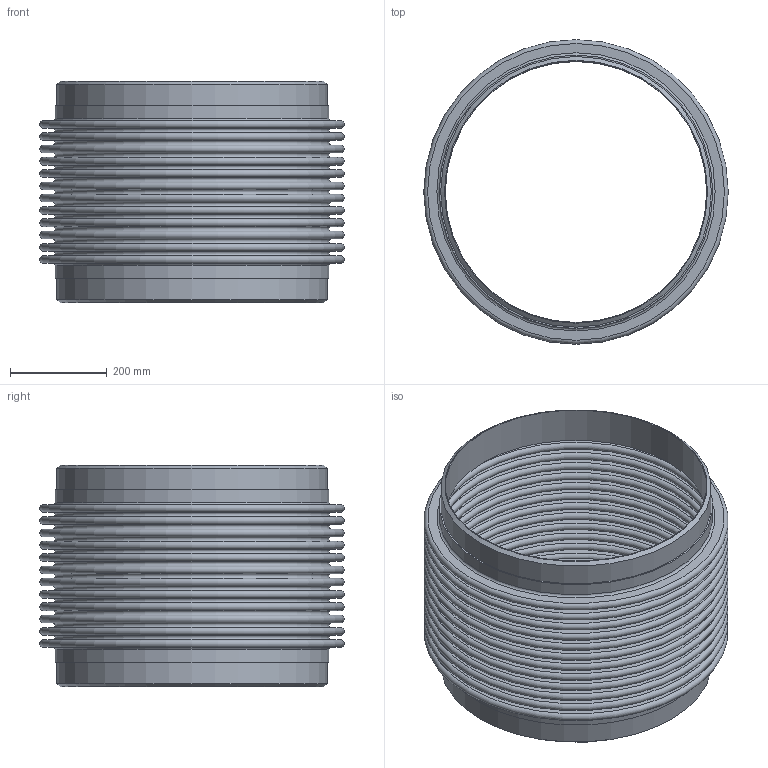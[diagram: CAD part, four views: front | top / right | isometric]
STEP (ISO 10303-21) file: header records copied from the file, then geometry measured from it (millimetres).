
FILE_DESCRIPTION(/* description */ ('EXPANSION JOINT,SINGLE, WELD ENDS,4 INCH NOMINAL'),/* implementation_level */ '2;1');
FILE_NAME(/* name */ 'ASSEMBLY US-22-12-300L.stp',/* time_stamp */ '2026-07-30T08:23:11-05:00',/* author */ ('jorgef'),/* organization */ (''),/* preprocessor_version */ 'ST-DEVELOPER v20.1',/* originating_system */ 'Autodesk Inventor 2026',/* authorisation */ '');
FILE_SCHEMA (('AUTOMOTIVE_DESIGN { 1 0 10303 214 3 1 1 }'));
Length unit declared in the file: inch
Products named in the file (3): ASSEMBLY  US-22-12-300L; STOCK BELLOW - US-22-12-300L; PIPE- US-22-12-300L
Assembly tree (3 placements, depth 2):
  ASSEMBLY  US-22-12-300L
    STOCK BELLOW - US-22-12-300L
    PIPE- US-22-12-300L  x2
Bounding box: 628.65 x 628.65 x 457.2 mm (x, y, z)
Volume: 8032743.4 mm3; surface area: 4292117.4 mm2
Topology: 5 solids, 5 shells, 118 faces, 180 edges, 121 vertices
Faces by surface type: plane 58, torus 50, cylinder 8, cone 2
Full cylindrical faces by diameter (mm): 539.75 x2, 558.8 x4, 564.896 x2
Entity records: 2769 total; most frequent: DIRECTION 573, CARTESIAN_POINT 405, ORIENTED_EDGE 342, AXIS2_PLACEMENT_3D 283, EDGE_CURVE 171, EDGE_LOOP 169, CIRCLE 164, VERTEX_POINT 114
